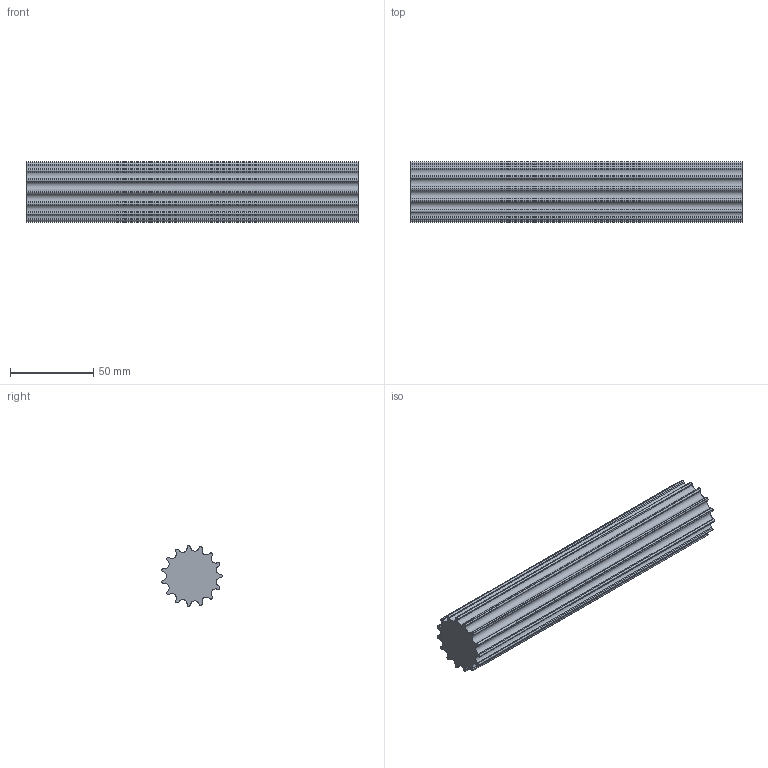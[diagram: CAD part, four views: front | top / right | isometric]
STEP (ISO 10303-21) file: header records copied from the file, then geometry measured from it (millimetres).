
FILE_DESCRIPTION( ( 'STEP AP203' ), '1' );
FILE_NAME( 'C:/Users/Stangenbergd/Desktop/17491501.stp', '2020-08-15T09:47:10', ( 'License CC BY-ND 4.0' ), ( 'CADENAS' ), ' ', 'PARTsolutions', ' ' );
FILE_SCHEMA( ( 'CONFIG_CONTROL_DESIGN' ) );
Length unit declared in the file: millimetre
Products named in the file (1): _17491501
Bounding box: 200 x 36.47 x 36.66 mm (x, y, z)
Volume: 168903.9 mm3; surface area: 33226.7 mm2
Topology: 1 solids, 1 shells, 92 faces, 270 edges, 180 vertices
Faces by surface type: cylinder 60, plane 32
Entity records: 3158 total; most frequent: DIRECTION 576, CARTESIAN_POINT 543, ORIENTED_EDGE 540, EDGE_CURVE 270, AXIS2_PLACEMENT_3D 213, VERTEX_POINT 180, LINE 150, VECTOR 150
